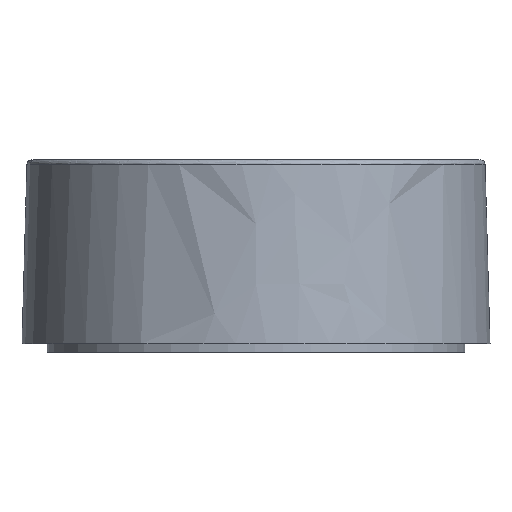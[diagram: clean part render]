
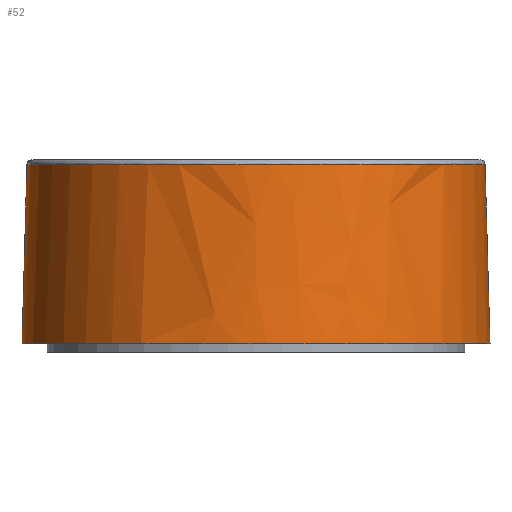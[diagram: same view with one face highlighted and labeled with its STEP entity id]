
A CAD part, left-side view. The second image highlights one B-rep face of the part: STEP entity #52.
In plain terms, the highlighted free-form (B-spline) face has degree [2, 3] with [5, 4] control points.
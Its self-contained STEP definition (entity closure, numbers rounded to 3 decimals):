
#52=ADVANCED_FACE('',(#88),#440,.T.);
#88=FACE_OUTER_BOUND('',#127,.T.);
#127=EDGE_LOOP('',(#267,#268,#269,#270));
#267=ORIENTED_EDGE('',*,*,#351,.T.);
#268=ORIENTED_EDGE('',*,*,#313,.F.);
#269=ORIENTED_EDGE('',*,*,#307,.F.);
#270=ORIENTED_EDGE('',*,*,#352,.F.);
#307=EDGE_CURVE('',#385,#396,#487,.T.);
#313=EDGE_CURVE('',#396,#411,#491,.T.);
#351=EDGE_CURVE('',#410,#411,#523,.T.);
#352=EDGE_CURVE('',#410,#385,#524,.T.);
#385=VERTEX_POINT('',#1903);
#396=VERTEX_POINT('',#1914);
#410=VERTEX_POINT('',#1928);
#411=VERTEX_POINT('',#1929);
#440=(
BOUNDED_SURFACE()
B_SPLINE_SURFACE(2,3,((#1751,#1752,#1753,#1754),(#1755,#1756,#1757,#1758),
(#1759,#1760,#1761,#1762),(#1763,#1764,#1765,#1766),(#1767,#1768,#1769,
#1770)),.UNSPECIFIED.,.F.,.F.,.F.)
B_SPLINE_SURFACE_WITH_KNOTS((3,2,3),(4,4),(-879.646,-659.734,
-439.823),(0.,110.082),.UNSPECIFIED.)
GEOMETRIC_REPRESENTATION_ITEM()
RATIONAL_B_SPLINE_SURFACE(((1.,1.,1.,1.),(0.707,0.707,
0.707,0.707),(1.,1.,1.,1.),(0.707,0.707,
0.707,0.707),(1.,1.,1.,1.)))
REPRESENTATION_ITEM('')
SURFACE()
);
#487=(
BOUNDED_CURVE()
B_SPLINE_CURVE(3,(#2142,#2143,#2144,#2145),.UNSPECIFIED.,.F.,.F.)
B_SPLINE_CURVE_WITH_KNOTS((4,4),(0.,107.161),.UNSPECIFIED.)
CURVE()
GEOMETRIC_REPRESENTATION_ITEM()
RATIONAL_B_SPLINE_CURVE((1.,1.,1.,1.))
REPRESENTATION_ITEM('')
);
#491=(
BOUNDED_CURVE()
B_SPLINE_CURVE(2,(#2168,#2169,#2170,#2171,#2172),.UNSPECIFIED.,.F.,.F.)
B_SPLINE_CURVE_WITH_KNOTS((3,2,3),(0.,210.613,421.226),
 .UNSPECIFIED.)
CURVE()
GEOMETRIC_REPRESENTATION_ITEM()
RATIONAL_B_SPLINE_CURVE((1.,0.707,1.,0.707,1.))
REPRESENTATION_ITEM('')
);
#523=(
BOUNDED_CURVE()
B_SPLINE_CURVE(3,(#2627,#2628,#2629,#2630),.UNSPECIFIED.,.F.,.F.)
B_SPLINE_CURVE_WITH_KNOTS((4,4),(0.,107.161),.UNSPECIFIED.)
CURVE()
GEOMETRIC_REPRESENTATION_ITEM()
RATIONAL_B_SPLINE_CURVE((1.,1.,1.,1.))
REPRESENTATION_ITEM('')
);
#524=(
BOUNDED_CURVE()
B_SPLINE_CURVE(2,(#2631,#2632,#2633,#2634,#2635),.UNSPECIFIED.,.F.,.F.)
B_SPLINE_CURVE_WITH_KNOTS((3,2,3),(439.823,659.734,879.646),
 .UNSPECIFIED.)
CURVE()
GEOMETRIC_REPRESENTATION_ITEM()
RATIONAL_B_SPLINE_CURVE((1.,0.707,1.,0.707,1.))
REPRESENTATION_ITEM('')
);
#1751=CARTESIAN_POINT('',(-114.003,2386.965,-110.));
#1752=CARTESIAN_POINT('',(-114.003,2385.965,-73.333));
#1753=CARTESIAN_POINT('',(-114.003,2384.965,-36.667));
#1754=CARTESIAN_POINT('',(-114.003,2383.965,0.));
#1755=CARTESIAN_POINT('',(-254.003,2386.965,-110.));
#1756=CARTESIAN_POINT('',(-253.003,2385.965,-73.333));
#1757=CARTESIAN_POINT('',(-252.003,2384.965,-36.667));
#1758=CARTESIAN_POINT('',(-251.003,2383.965,0.));
#1759=CARTESIAN_POINT('',(-254.003,2246.965,-110.));
#1760=CARTESIAN_POINT('',(-253.003,2246.965,-73.333));
#1761=CARTESIAN_POINT('',(-252.003,2246.965,-36.667));
#1762=CARTESIAN_POINT('',(-251.003,2246.965,0.));
#1763=CARTESIAN_POINT('',(-254.003,2106.965,-110.));
#1764=CARTESIAN_POINT('',(-253.003,2107.965,-73.333));
#1765=CARTESIAN_POINT('',(-252.003,2108.965,-36.667));
#1766=CARTESIAN_POINT('',(-251.003,2109.965,0.));
#1767=CARTESIAN_POINT('',(-114.003,2106.965,-110.));
#1768=CARTESIAN_POINT('',(-114.003,2107.965,-73.333));
#1769=CARTESIAN_POINT('',(-114.003,2108.965,-36.667));
#1770=CARTESIAN_POINT('',(-114.003,2109.965,0.));
#1903=CARTESIAN_POINT('',(-114.003,2386.965,-110.));
#1914=CARTESIAN_POINT('',(-114.003,2384.045,-2.918));
#1928=CARTESIAN_POINT('',(-114.003,2106.965,-110.));
#1929=CARTESIAN_POINT('',(-114.003,2109.886,-2.918));
#2142=CARTESIAN_POINT('',(-114.003,2386.965,-110.));
#2143=CARTESIAN_POINT('',(-114.003,2385.992,-74.306));
#2144=CARTESIAN_POINT('',(-114.003,2385.018,-38.612));
#2145=CARTESIAN_POINT('',(-114.003,2384.045,-2.918));
#2168=CARTESIAN_POINT('',(-114.003,2384.045,-2.918));
#2169=CARTESIAN_POINT('',(-251.083,2384.045,-2.918));
#2170=CARTESIAN_POINT('',(-251.083,2246.965,-2.918));
#2171=CARTESIAN_POINT('',(-251.083,2109.886,-2.918));
#2172=CARTESIAN_POINT('',(-114.003,2109.886,-2.918));
#2627=CARTESIAN_POINT('',(-114.003,2106.965,-110.));
#2628=CARTESIAN_POINT('',(-114.003,2107.939,-74.306));
#2629=CARTESIAN_POINT('',(-114.003,2108.912,-38.612));
#2630=CARTESIAN_POINT('',(-114.003,2109.886,-2.918));
#2631=CARTESIAN_POINT('',(-114.003,2106.965,-110.));
#2632=CARTESIAN_POINT('',(-254.003,2106.965,-110.));
#2633=CARTESIAN_POINT('',(-254.003,2246.965,-110.));
#2634=CARTESIAN_POINT('',(-254.003,2386.965,-110.));
#2635=CARTESIAN_POINT('',(-114.003,2386.965,-110.));
